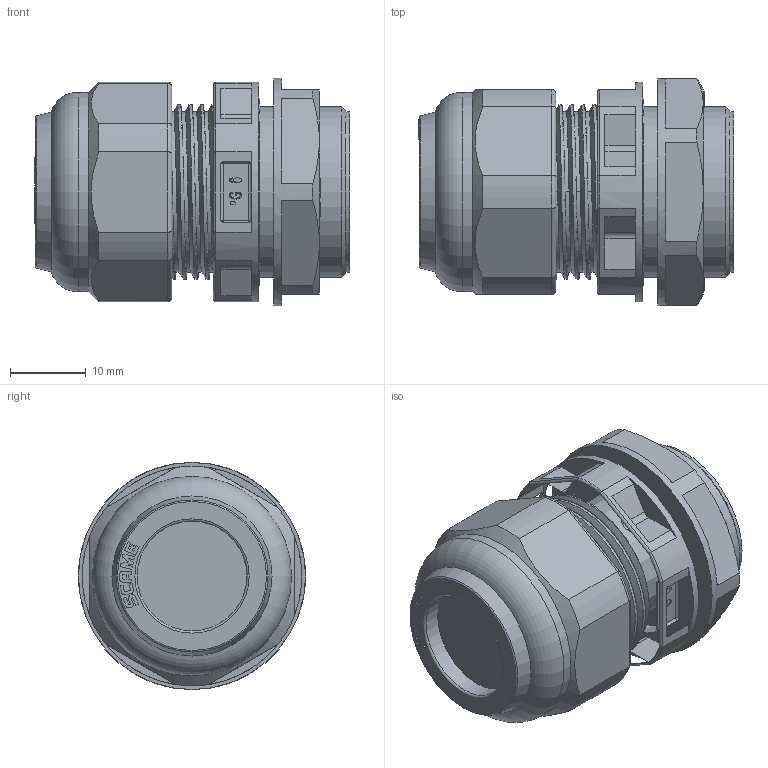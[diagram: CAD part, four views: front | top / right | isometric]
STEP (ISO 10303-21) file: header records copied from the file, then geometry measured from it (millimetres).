
FILE_DESCRIPTION(/* description */ (''),/* implementation_level */ '2;1');
FILE_NAME(/* name */ '4004546.stp',/* time_stamp */ '2016-09-26T09:35:40+02:00',/* author */ (''),/* organization */ (''),/* preprocessor_version */ 'ST-DEVELOPER v16',/* originating_system */ 'SIEMENS PLM Software NX 11.0',/* authorisation */ '');
FILE_SCHEMA (('AUTOMOTIVE_DESIGN { 1 0 10303 214 3 1 1 1 }'));
Length unit declared in the file: millimetre
Products named in the file (1): 4004546_LINKEDEXT_jt
Bounding box: 41.65 x 30 x 30 mm (x, y, z)
Surface area: 9388.4 mm2 (no closed solid volume)
Topology: 0 solids, 25 shells, 164 faces, 692 edges, 534 vertices
Faces by surface type: plane 81, cylinder 45, torus 16, cone 12, sphere 8, bspline 2
Full cylindrical faces by diameter (mm): 14.5 x2, 21.16 x1, 21.218 x6, 22.5 x1, 26.3 x1, 29 x1, 30 x1
Entity records: 13932 total; most frequent: CARTESIAN_POINT 8730, DIRECTION 939, ORIENTED_EDGE 891, EDGE_CURVE 641, VERTEX_POINT 517, LINE 323, VECTOR 323, AXIS2_PLACEMENT_3D 308
